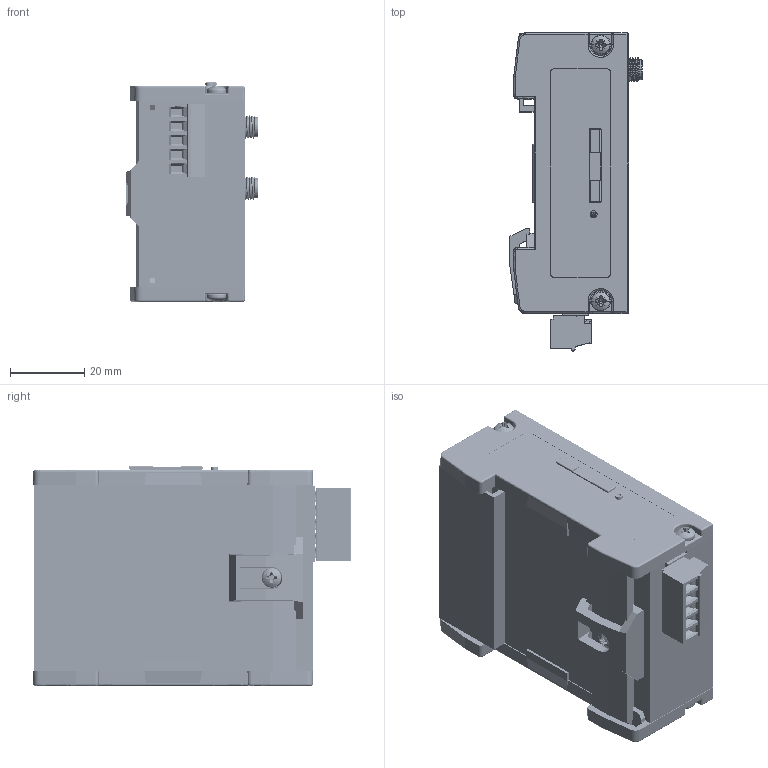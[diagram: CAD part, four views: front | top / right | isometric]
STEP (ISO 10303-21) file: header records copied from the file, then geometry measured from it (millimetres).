
FILE_DESCRIPTION(('FreeCAD Model'),'2;1');
FILE_NAME('C:/Users/bruenen/Desktop/700-875-LTE01.step', '2016-04-19T14:52:20',('Author'),(''), 'Open CASCADE STEP processor 6.8','FreeCAD','Unknown');
FILE_SCHEMA(('AUTOMOTIVE_DESIGN_CC2 { 1 2 10303 214 -1 1 5 4 }'));
Length unit declared in the file: millimetre
Products named in the file (46): ASSEMBLY; HUTSCHIENENCLIP_A001_(Mirror_#2); RJ049; RJ048; RJ046; RJ047; SEITEN_1; 5992189_050; 5992189_051; 5992189_052; 5992189_053; 5992189_054; Aluprofil_50_mm; Fusion008; Fusion001; Fusion002; Fusion003; Cut013; SEITEN_002_(Mirror_#1); mc_1.5-5-g-3.81_p20_thr; Extrude023; Extrude024; Extrude025; Extrude026; Extrude028; Extrude029; Extrude030; Extrude031; Extrude032; TXT_Helmholz; C-1734366-005; zwei_Antenen; TXT_P1_LAN003; TXT_P2_LAN004; TXT_P3_LAN004; TXT_P4_LAN004; TXT_USB; SMA-J-P-X-ST-TH003; SMA-J-P-X-ST-TH004; TXT_LTE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
Assembly tree (45 placements, depth 2):
  ASSEMBLY
    HUTSCHIENENCLIP_A001_(Mirror_#2)
    RJ049
    RJ048
    RJ046
    RJ047
    SEITEN_1
    5992189_050
    5992189_051
    5992189_052
    5992189_053
    5992189_054
    Aluprofil_50_mm
    Fusion008
    Fusion001
    Fusion002
    Fusion003
    Cut013
    SEITEN_002_(Mirror_#1)
    mc_1.5-5-g-3.81_p20_thr
    Extrude023
    Extrude024
    Extrude025
    Extrude026
    Extrude028
    Extrude029
    Extrude030
    Extrude031
    Extrude032
    TXT_Helmholz
    C-1734366-005
    zwei_Antenen
    TXT_P1_LAN003
    TXT_P2_LAN004
    TXT_P3_LAN004
    TXT_P4_LAN004
    TXT_USB
    SMA-J-P-X-ST-TH003
    SMA-J-P-X-ST-TH004
    TXT_LTE
    TXT_RE
    TXT_X
    TXT_100
    TXT_SIM001
    Extrude091
    Fusion029
Bounding box: 35.55 x 85.56 x 59 mm (x, y, z)
Volume: 39520.2 mm3; surface area: 66956.5 mm2
Topology: 110 solids, 500 shells, 6996 faces, 20860 edges, 14520 vertices
Faces by surface type: plane 4040, cylinder 1242, extrusion 784, bspline 493, cone 149, torus 108, revolution 100, sphere 80
Full cylindrical faces by diameter (mm): 2 x2, 2.8 x8, 6.4 x2, 10 x2
Entity records: 753518 total; most frequent: CARTESIAN_POINT 357389, DIRECTION 56586, ORIENTED_EDGE 38582, PCURVE 38582, DEFINITIONAL_REPRESENTATION 38582, VECTOR 37848, LINE 37064, EDGE_CURVE 20780
